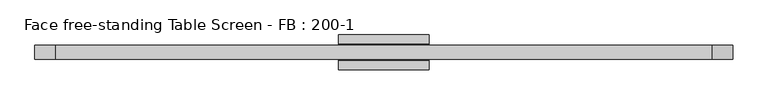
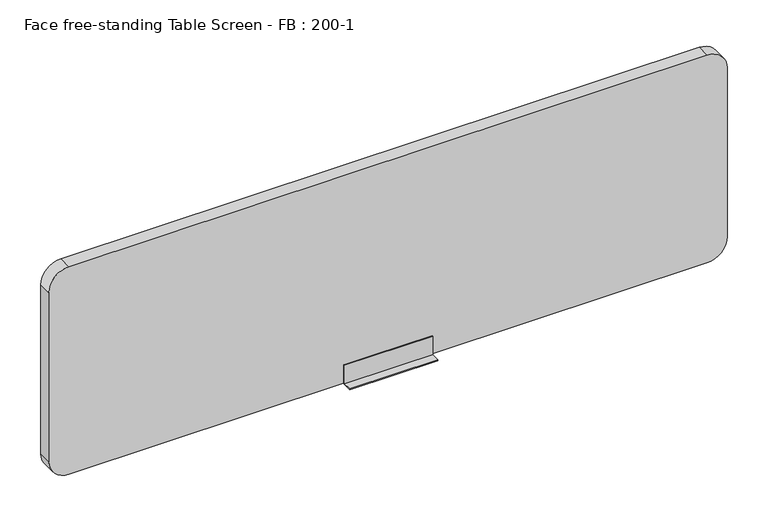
"""IFC4 building model written with IfcOpenShell, lengths in millimetres: furniture geometry, Face free-standing Table Screen - FB : 200-1."""

from ifc_helpers import new_model, si_unit, point, frame, frame_2d, origin, place, context, project, spatial, polyline, circle_curve, trimmed, segment, composite_curve, outline, extrude, source, transform, mapped, element, save


def face_free_standing_table_screen_fb_200_1_d3b5c3e5(model_context):
    return source(origin(), model_context, "Body", "SweptSolid", [
        extrude(outline(polyline([(-50.0, 3.0), (-22.999995, 3.0), (-23.0, 60.0), (-20.0, 60.0), (-20.0, 3.0), (20.0, 3.0), (20.0, 60.0), (23.0, 60.0), (22.999995, 3.0), (50.0, 3.0), (50.0, 0.0), (-50.0, 0.0), (-50.0, 3.0)])), frame((-130.0, 0.0, 0.0), z_axis=(1.0, 0.0, 0.0), x_axis=(0.0, 1.0, 0.0)), (0.0, 0.0, 1.0), 260.0),
        extrude(outline(composite_curve([segment(polyline([(650.0, 940.0), (650.0, -940.0)]), True, "CONTINUOUS"), segment(trimmed(circle_curve(frame_2d((590.0, -940.0)), 60.0), [point((650.0, -940.0))], [point((590.0, -1000.0))], False, "CARTESIAN"), True, "CONTINUOUS"), segment(polyline([(590.0, -1000.0), (63.0, -1000.0)]), True, "CONTINUOUS"), segment(trimmed(circle_curve(frame_2d((63.0, -940.0)), 60.0), [point((63.0, -1000.0))], [point((3.0, -940.0))], False, "CARTESIAN"), True, "CONTINUOUS"), segment(polyline([(3.0, -940.0), (3.0, 940.0)]), True, "CONTINUOUS"), segment(trimmed(circle_curve(frame_2d((63.0, 940.0)), 60.0), [point((3.0, 940.0))], [point((63.0, 1000.0))], False, "CARTESIAN"), True, "CONTINUOUS"), segment(polyline([(63.0, 1000.0), (590.0, 1000.0)]), True, "CONTINUOUS"), segment(trimmed(circle_curve(frame_2d((590.0, 940.0)), 60.0), [point((590.0, 1000.0))], [point((650.0, 940.0))], False, "CARTESIAN"), True, "CONTINUOUS")], self_intersect=False)), frame((0.0, -20.0, 0.0), z_axis=(0.0, 1.0, 0.0), x_axis=(0.0, 0.0, 1.0)), (0.0, 0.0, 1.0), 40.0),
    ])


if __name__ == "__main__":
    model = new_model("IFC4")
    model_context = context("Model", 3, world=origin())
    ifc_project = project(units=[si_unit("LENGTHUNIT", "METRE", prefix="MILLI")], contexts=[model_context])
    site = spatial("IfcSite", under=ifc_project)
    building = spatial("IfcBuilding", under=site)
    placement = place(None, origin())
    face_free_standing_table_screen_fb_200_1_shape = face_free_standing_table_screen_fb_200_1_d3b5c3e5(model_context)
    element("IfcFurniture", 1, ObjectType="Face free-standing Table Screen - FB : 200-1", at=placement, inside=building, context=model_context, shape_type="MappedRepresentation", body=[
        mapped(face_free_standing_table_screen_fb_200_1_shape, transform((0.0, 0.0, 0.0), x_axis=(1.0, 0.0, 0.0), y_axis=(0.0, 1.0, 0.0), z_axis=(0.0, 0.0, 1.0))),
    ])
    save(model, "model.ifc")
